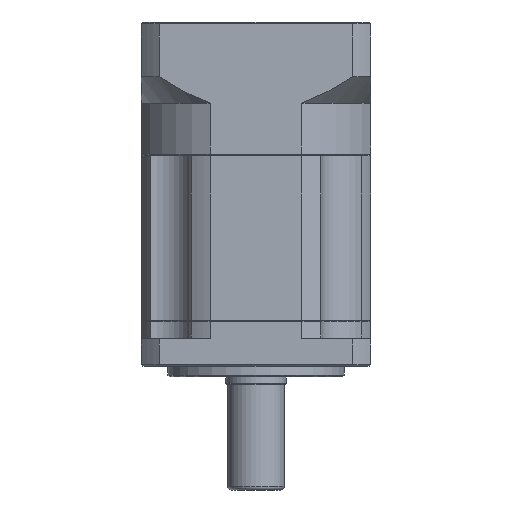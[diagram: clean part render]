
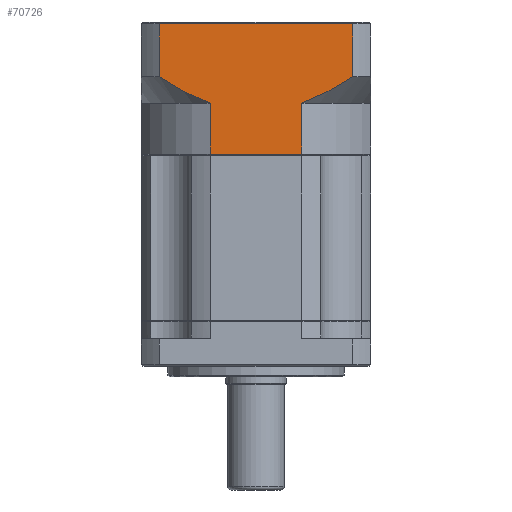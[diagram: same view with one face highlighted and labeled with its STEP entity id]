
A CAD part, front view. The second image highlights one B-rep face of the part: STEP entity #70726.
In plain terms, the highlighted planar face has unit normal (0, -1, 0).
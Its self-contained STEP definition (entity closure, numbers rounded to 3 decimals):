
#53 = DIRECTION ( 'NONE',  ( 0., 0., -1. ) ) ;
#55 = CARTESIAN_POINT ( 'NONE',  ( -84.32, -7.96, 27.157 ) ) ;
#259 = VECTOR ( 'NONE', #50259, 1000. ) ;
#2725 = CARTESIAN_POINT ( 'NONE',  ( -24.434, -7.96, 27.657 ) ) ;
#3287 = VERTEX_POINT ( 'NONE', #27293 ) ;
#3872 = ORIENTED_EDGE ( 'NONE', *, *, #106414, .F. ) ;
#5712 = CARTESIAN_POINT ( 'NONE',  ( -69.924, -7.96, 4.657 ) ) ;
#10866 = EDGE_CURVE ( 'NONE', #30729, #3287, #73409, .T. ) ;
#11198 = EDGE_CURVE ( 'NONE', #37724, #3287, #13801, .T. ) ;
#11699 = CARTESIAN_POINT ( 'NONE',  ( -84.32, -7.96, 27.157 ) ) ;
#12818 = CARTESIAN_POINT ( 'NONE',  ( -84.32, -7.96, 12.157 ) ) ;
#13786 = CARTESIAN_POINT ( 'NONE',  ( -71.206, -7.96, 5.148 ) ) ;
#13801 = LINE ( 'NONE', #115590, #112263 ) ;
#15184 = EDGE_CURVE ( 'NONE', #114583, #22143, #32080, .T. ) ;
#21202 = DIRECTION ( 'NONE',  ( 0., 0., 1. ) ) ;
#21354 = CARTESIAN_POINT ( 'NONE',  ( -69.924, -7.96, -9.754 ) ) ;
#22143 = VERTEX_POINT ( 'NONE', #55 ) ;
#22925 = FACE_OUTER_BOUND ( 'NONE', #31198, .T. ) ;
#23010 = CARTESIAN_POINT ( 'NONE',  ( -84.32, -7.96, 12.157 ) ) ;
#26323 = ORIENTED_EDGE ( 'NONE', *, *, #72454, .F. ) ;
#27293 = CARTESIAN_POINT ( 'NONE',  ( -43.944, -7.96, -9.754 ) ) ;
#29070 = VECTOR ( 'NONE', #21202, 1000. ) ;
#30486 = CARTESIAN_POINT ( 'NONE',  ( -35.359, -7.96, 8.653 ) ) ;
#30500 = LINE ( 'NONE', #86869, #93115 ) ;
#30729 = VERTEX_POINT ( 'NONE', #46303 ) ;
#31125 = ORIENTED_EDGE ( 'NONE', *, *, #10866, .F. ) ;
#31198 = EDGE_LOOP ( 'NONE', ( #3872, #71099, #106972, #26323, #73524, #101018, #31125, #99525 ) ) ;
#31311 = CARTESIAN_POINT ( 'NONE',  ( -43.944, -7.96, 4.657 ) ) ;
#32080 = LINE ( 'NONE', #68296, #29070 ) ;
#37724 = VERTEX_POINT ( 'NONE', #21354 ) ;
#38506 = DIRECTION ( 'NONE',  ( 1., 0., 0. ) ) ;
#40446 = CARTESIAN_POINT ( 'NONE',  ( -34.174, -7.96, 9.323 ) ) ;
#40508 = CARTESIAN_POINT ( 'NONE',  ( -73.09, -7.96, 5.947 ) ) ;
#41327 = CARTESIAN_POINT ( 'NONE',  ( -70.567, -7.96, 4.896 ) ) ;
#46303 = CARTESIAN_POINT ( 'NONE',  ( -43.944, -7.96, 4.657 ) ) ;
#49080 = VERTEX_POINT ( 'NONE', #5712 ) ;
#49588 = CARTESIAN_POINT ( 'NONE',  ( -31.838, -7.96, 10.708 ) ) ;
#50259 = DIRECTION ( 'NONE',  ( 0., 0., -1. ) ) ;
#50919 = CARTESIAN_POINT ( 'NONE',  ( -69.924, -7.96, 4.657 ) ) ;
#51337 = CARTESIAN_POINT ( 'NONE',  ( -74.944, -7.96, 6.797 ) ) ;
#53308 = LINE ( 'NONE', #85550, #93574 ) ;
#59812 = PLANE ( 'NONE',  #100759 ) ;
#60082 = CARTESIAN_POINT ( 'NONE',  ( -76.156, -7.96, 7.402 ) ) ;
#63846 = EDGE_CURVE ( 'NONE', #94120, #22143, #76279, .T. ) ;
#65916 = CARTESIAN_POINT ( 'NONE',  ( -29.548, -7.96, 12.157 ) ) ;
#68296 = CARTESIAN_POINT ( 'NONE',  ( -84.32, -7.96, 9.657 ) ) ;
#70726 = ADVANCED_FACE ( 'NONE', ( #22925 ), #59812, .F. ) ;
#71099 = ORIENTED_EDGE ( 'NONE', *, *, #63846, .T. ) ;
#72454 = EDGE_CURVE ( 'NONE', #49080, #114583, #112953, .T. ) ;
#73409 = LINE ( 'NONE', #107425, #259 ) ;
#73524 = ORIENTED_EDGE ( 'NONE', *, *, #83312, .F. ) ;
#76279 = LINE ( 'NONE', #11699, #82258 ) ;
#78568 = DIRECTION ( 'NONE',  ( 0., 0., 1. ) ) ;
#82258 = VECTOR ( 'NONE', #106344, 1000. ) ;
#83037 = VERTEX_POINT ( 'NONE', #102767 ) ;
#83312 = EDGE_CURVE ( 'NONE', #37724, #49080, #30500, .T. ) ;
#85550 = CARTESIAN_POINT ( 'NONE',  ( -29.548, -7.96, 9.657 ) ) ;
#86869 = CARTESIAN_POINT ( 'NONE',  ( -69.924, -7.96, 4.657 ) ) ;
#89694 = CARTESIAN_POINT ( 'NONE',  ( -82.051, -7.96, 10.695 ) ) ;
#93115 = VECTOR ( 'NONE', #78568, 1000. ) ;
#93574 = VECTOR ( 'NONE', #53, 1000. ) ;
#94120 = VERTEX_POINT ( 'NONE', #108917 ) ;
#98408 = CARTESIAN_POINT ( 'NONE',  ( -79.736, -7.96, 9.307 ) ) ;
#99525 = ORIENTED_EDGE ( 'NONE', *, *, #117870, .F. ) ;
#100193 = DIRECTION ( 'NONE',  ( 0., 1., 0. ) ) ;
#100759 = AXIS2_PLACEMENT_3D ( 'NONE', #2725, #100193, #119391 ) ;
#101018 = ORIENTED_EDGE ( 'NONE', *, *, #11198, .T. ) ;
#102767 = CARTESIAN_POINT ( 'NONE',  ( -29.548, -7.96, 12.157 ) ) ;
#106344 = DIRECTION ( 'NONE',  ( -1., 0., 0. ) ) ;
#106414 = EDGE_CURVE ( 'NONE', #94120, #83037, #53308, .T. ) ;
#106972 = ORIENTED_EDGE ( 'NONE', *, *, #15184, .F. ) ;
#107425 = CARTESIAN_POINT ( 'NONE',  ( -43.944, -7.96, 4.657 ) ) ;
#108917 = CARTESIAN_POINT ( 'NONE',  ( -29.548, -7.96, 27.157 ) ) ;
#112018 = B_SPLINE_CURVE_WITH_KNOTS ( 'NONE', 3,
 ( #65916, #114261, #49588, #40446, #30486, #117143, #116710, #31311 ),
 .UNSPECIFIED., .F., .F.,
 ( 4, 2, 2, 4 ),
 ( 0.059, 0.063, 0.067, 0.075 ),
 .UNSPECIFIED. ) ;
#112263 = VECTOR ( 'NONE', #38506, 1000. ) ;
#112953 = B_SPLINE_CURVE_WITH_KNOTS ( 'NONE', 3,
 ( #50919, #41327, #13786, #117205, #40508, #51337, #60082, #98408, #89694, #23010 ),
 .UNSPECIFIED., .F., .F.,
 ( 4, 2, 2, 2, 4 ),
 ( 0.101, 0.104, 0.106, 0.11, 0.118 ),
 .UNSPECIFIED. ) ;
#114261 = CARTESIAN_POINT ( 'NONE',  ( -30.686, -7.96, 11.424 ) ) ;
#114583 = VERTEX_POINT ( 'NONE', #12818 ) ;
#115590 = CARTESIAN_POINT ( 'NONE',  ( -24.434, -7.96, -9.754 ) ) ;
#116710 = CARTESIAN_POINT ( 'NONE',  ( -41.405, -7.96, 5.6 ) ) ;
#117143 = CARTESIAN_POINT ( 'NONE',  ( -38.953, -7.96, 6.744 ) ) ;
#117205 = CARTESIAN_POINT ( 'NONE',  ( -72.466, -7.96, 5.674 ) ) ;
#117870 = EDGE_CURVE ( 'NONE', #83037, #30729, #112018, .T. ) ;
#119391 = DIRECTION ( 'NONE',  ( -1., 0., 0. ) ) ;
